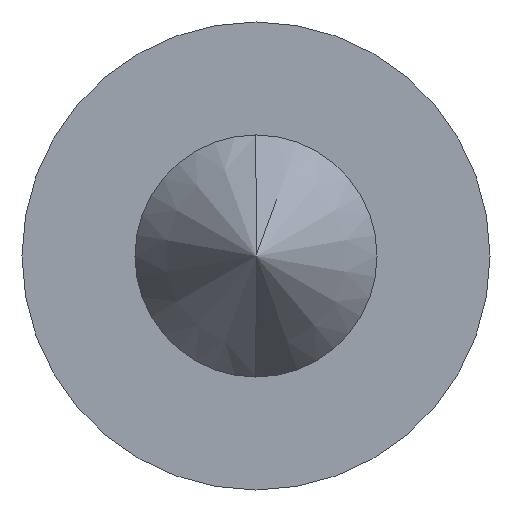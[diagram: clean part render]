
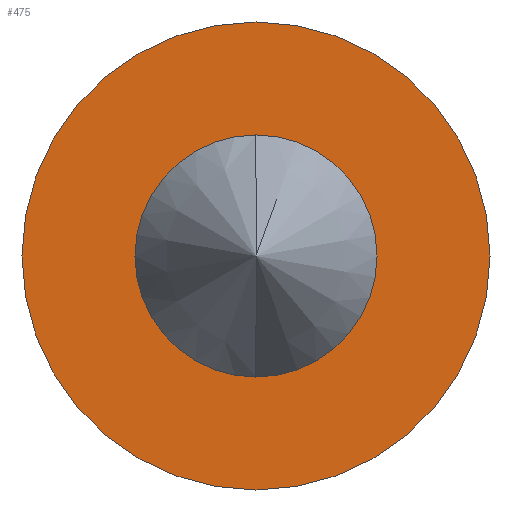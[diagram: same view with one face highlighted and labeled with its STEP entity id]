
A CAD part, left-side view. The second image highlights one B-rep face of the part: STEP entity #475.
In plain terms, the highlighted planar face has unit normal (-1, 0, 0).
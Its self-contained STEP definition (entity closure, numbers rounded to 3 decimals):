
#14 = FACE_OUTER_BOUND ( 'NONE', #4000, .T. ) ;
#252 = DIRECTION ( 'NONE',  ( -1., 0., 0. ) ) ;
#353 = DIRECTION ( 'NONE',  ( 0., 0., 1. ) ) ;
#439 = EDGE_LOOP ( 'NONE', ( #3250, #3320 ) ) ;
#458 = DIRECTION ( 'NONE',  ( 0., 0., -1. ) ) ;
#475 = ADVANCED_FACE ( 'NONE', ( #1175, #14 ), #2152, .F. ) ;
#721 = DIRECTION ( 'NONE',  ( -1., 0., 0. ) ) ;
#780 = CIRCLE ( 'NONE', #2222, 2.9 ) ;
#787 = CARTESIAN_POINT ( 'NONE',  ( 4.355, 0., -2.9 ) ) ;
#944 = CARTESIAN_POINT ( 'NONE',  ( 4.355, 0., 0. ) ) ;
#1001 = EDGE_CURVE ( 'NONE', #3573, #1457, #4268, .T. ) ;
#1175 = FACE_BOUND ( 'NONE', #439, .T. ) ;
#1457 = VERTEX_POINT ( 'NONE', #787 ) ;
#1541 = CIRCLE ( 'NONE', #2547, 1.202 ) ;
#1743 = EDGE_CURVE ( 'NONE', #2435, #2954, #1974, .T. ) ;
#1942 = DIRECTION ( 'NONE',  ( 0., 0., 1. ) ) ;
#1974 = CIRCLE ( 'NONE', #3787, 1.202 ) ;
#2073 = CARTESIAN_POINT ( 'NONE',  ( 4.355, 0., 0. ) ) ;
#2106 = CARTESIAN_POINT ( 'NONE',  ( 4.355, 0., 0. ) ) ;
#2152 = PLANE ( 'NONE',  #4056 ) ;
#2203 = EDGE_CURVE ( 'NONE', #1457, #3573, #780, .T. ) ;
#2222 = AXIS2_PLACEMENT_3D ( 'NONE', #944, #252, #3937 ) ;
#2223 = DIRECTION ( 'NONE',  ( 0., 0., 1. ) ) ;
#2238 = DIRECTION ( 'NONE',  ( -1., 0., 0. ) ) ;
#2242 = CARTESIAN_POINT ( 'NONE',  ( 4.355, 0., 0. ) ) ;
#2435 = VERTEX_POINT ( 'NONE', #2481 ) ;
#2481 = CARTESIAN_POINT ( 'NONE',  ( 4.355, 0., -1.202 ) ) ;
#2547 = AXIS2_PLACEMENT_3D ( 'NONE', #2242, #2238, #2223 ) ;
#2769 = CARTESIAN_POINT ( 'NONE',  ( 4.355, 0., 2.9 ) ) ;
#2893 = DIRECTION ( 'NONE',  ( 1., 0., 0. ) ) ;
#2954 = VERTEX_POINT ( 'NONE', #3005 ) ;
#3005 = CARTESIAN_POINT ( 'NONE',  ( 4.355, 0., 1.202 ) ) ;
#3094 = EDGE_CURVE ( 'NONE', #2954, #2435, #1541, .T. ) ;
#3250 = ORIENTED_EDGE ( 'NONE', *, *, #1743, .F. ) ;
#3320 = ORIENTED_EDGE ( 'NONE', *, *, #3094, .F. ) ;
#3362 = ORIENTED_EDGE ( 'NONE', *, *, #1001, .T. ) ;
#3404 = ORIENTED_EDGE ( 'NONE', *, *, #2203, .T. ) ;
#3573 = VERTEX_POINT ( 'NONE', #2769 ) ;
#3761 = DIRECTION ( 'NONE',  ( -1., 0., 0. ) ) ;
#3787 = AXIS2_PLACEMENT_3D ( 'NONE', #2106, #3761, #1942 ) ;
#3867 = AXIS2_PLACEMENT_3D ( 'NONE', #2073, #721, #353 ) ;
#3921 = CARTESIAN_POINT ( 'NONE',  ( 4.355, 2.9, 0. ) ) ;
#3937 = DIRECTION ( 'NONE',  ( 0., 0., 1. ) ) ;
#4000 = EDGE_LOOP ( 'NONE', ( #3362, #3404 ) ) ;
#4056 = AXIS2_PLACEMENT_3D ( 'NONE', #3921, #2893, #458 ) ;
#4268 = CIRCLE ( 'NONE', #3867, 2.9 ) ;
